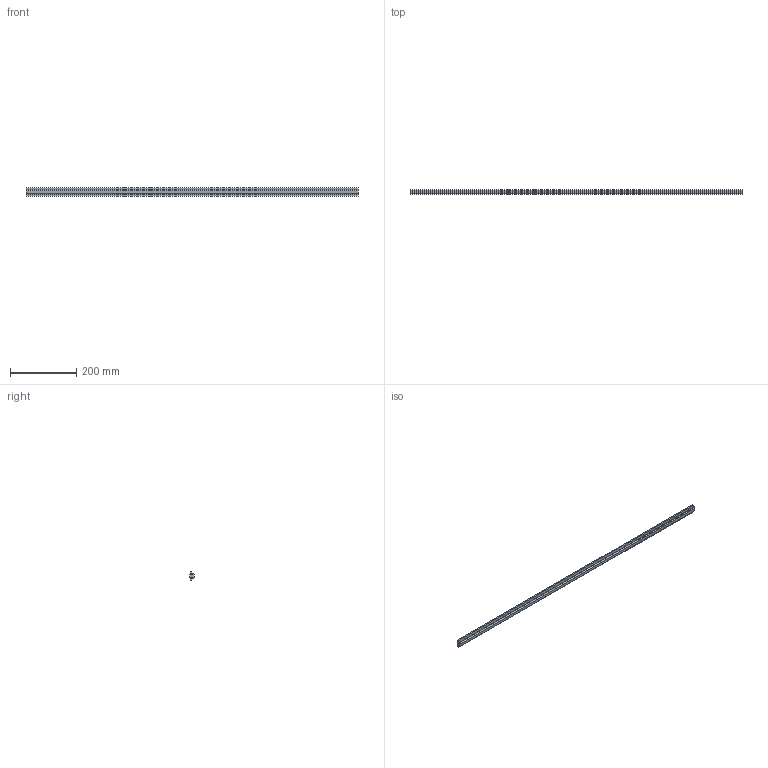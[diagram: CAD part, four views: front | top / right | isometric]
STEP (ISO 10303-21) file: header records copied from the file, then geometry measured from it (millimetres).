
FILE_DESCRIPTION (( 'STEP AP203' ), '1' );
FILE_NAME ('10185_GLE8.30PASS.STEP', '2018-03-08T13:58:07', ( '' ), ( '' ), 'SwSTEP 2.0', 'SolidWorks 2017', '' );
FILE_SCHEMA (( 'CONFIG_CONTROL_DESIGN' ));
Length unit declared in the file: millimetre
Products named in the file (1): 10185_GLE8.30PASS
Bounding box: 1000 x 13.5 x 25 mm (x, y, z)
Volume: 196312.9 mm3; surface area: 85472 mm2
Topology: 1 solids, 1 shells, 21 faces, 57 edges, 38 vertices
Faces by surface type: plane 18, cylinder 3
Entity records: 734 total; most frequent: CARTESIAN_POINT 117, ORIENTED_EDGE 114, DIRECTION 107, EDGE_CURVE 57, VECTOR 51, LINE 51, VERTEX_POINT 38, AXIS2_PLACEMENT_3D 28
